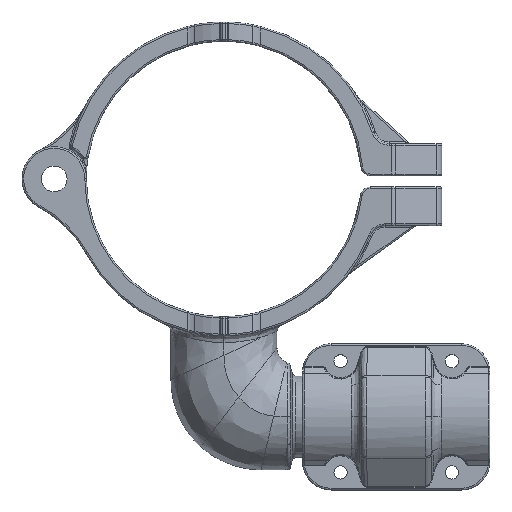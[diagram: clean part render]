
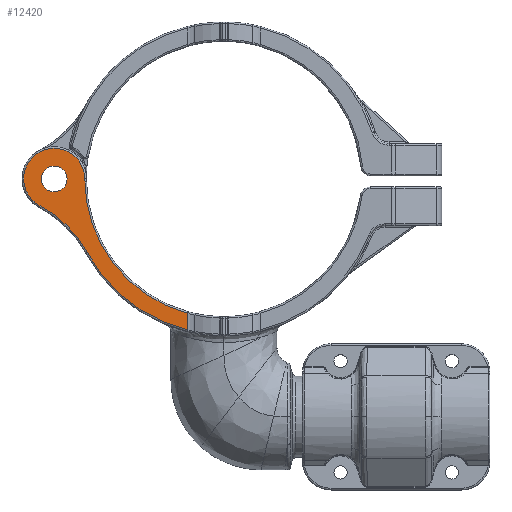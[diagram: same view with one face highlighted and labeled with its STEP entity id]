
A CAD part, top view. The second image highlights one B-rep face of the part: STEP entity #12420.
In plain terms, the highlighted planar face has unit normal (0, 0, 1).
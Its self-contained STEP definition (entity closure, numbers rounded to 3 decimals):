
#3001=DIRECTION('',(0.,1.,0.));
#3002=VECTOR('',#3001,5.22);
#3003=CARTESIAN_POINT('',(-11.384,-47.531,
17.708));
#3004=LINE('',#3003,#3002);
#3031=CARTESIAN_POINT('',(-53.429,0.,17.708));
#3032=DIRECTION('',(0.,0.,-1.));
#3033=DIRECTION('',(0.465,0.885,0.));
#3034=AXIS2_PLACEMENT_3D('',#3031,#3032,#3033);
#3039=CARTESIAN_POINT('',(0.,0.,17.708));
#3040=DIRECTION('',(0.,0.,1.));
#3041=DIRECTION('',(-1.,0.,0.));
#3042=AXIS2_PLACEMENT_3D('',#3039,#3040,#3041);
#3047=CARTESIAN_POINT('',(0.,0.,17.708));
#3048=DIRECTION('',(0.,0.,-1.));
#3049=DIRECTION('',(-0.233,-0.972,0.));
#3050=AXIS2_PLACEMENT_3D('',#3047,#3048,#3049);
#3055=CARTESIAN_POINT('',(-74.602,-40.314,17.708));
#3056=DIRECTION('',(0.,0.,1.));
#3057=DIRECTION('',(0.88,0.475,0.));
#3058=AXIS2_PLACEMENT_3D('',#3055,#3056,#3057);
#3063=CARTESIAN_POINT('',(-53.429,0.,17.708));
#3064=DIRECTION('',(0.,0.,-1.));
#3065=DIRECTION('',(-0.465,-0.885,0.));
#3066=AXIS2_PLACEMENT_3D('',#3063,#3064,#3065);
#3071=CARTESIAN_POINT('',(-53.429,0.,17.708));
#3072=DIRECTION('',(0.,0.,1.));
#3073=DIRECTION('',(1.,0.,0.));
#3074=AXIS2_PLACEMENT_3D('',#3071,#3072,#3073);
#3079=CARTESIAN_POINT('',(-53.429,0.,17.708));
#3080=DIRECTION('',(0.,0.,1.));
#3081=DIRECTION('',(-1.,0.,0.));
#3082=AXIS2_PLACEMENT_3D('',#3079,#3080,#3081);
#8134=CARTESIAN_POINT('',(-11.384,-47.531,17.708));
#8135=VERTEX_POINT('',#8134);
#8136=CARTESIAN_POINT('',(-42.998,-23.236,17.708));
#8137=VERTEX_POINT('',#8136);
#8140=CARTESIAN_POINT('',(-57.899,-8.511,17.708));
#8141=VERTEX_POINT('',#8140);
#8447=CARTESIAN_POINT('',(-11.384,-42.311,
17.708));
#8448=VERTEX_POINT('',#8447);
#8449=CARTESIAN_POINT('',(-48.959,8.511,17.708));
#8450=CARTESIAN_POINT('',(-43.815,0.,17.708));
#8451=VERTEX_POINT('',#8449);
#8452=VERTEX_POINT('',#8450);
#8453=CARTESIAN_POINT('',(-49.381,0.,17.708));
#8454=CARTESIAN_POINT('',(-57.476,0.,17.708));
#8455=VERTEX_POINT('',#8453);
#8456=VERTEX_POINT('',#8454);
#12398=CARTESIAN_POINT('',(0.,0.,17.708));
#12399=DIRECTION('',(0.,0.,1.));
#12400=DIRECTION('',(-1.,0.,0.));
#12401=AXIS2_PLACEMENT_3D('',#12398,#12399,#12400);
#12402=PLANE('',#12401);
#12404=ORIENTED_EDGE('',*,*,#12403,.T.);
#12406=ORIENTED_EDGE('',*,*,#12405,.T.);
#12407=ORIENTED_EDGE('',*,*,#12389,.F.);
#12408=ORIENTED_EDGE('',*,*,#10831,.T.);
#12409=ORIENTED_EDGE('',*,*,#10846,.T.);
#12411=ORIENTED_EDGE('',*,*,#12410,.T.);
#12412=EDGE_LOOP('',(#12404,#12406,#12407,#12408,#12409,#12411));
#12413=FACE_OUTER_BOUND('',#12412,.F.);
#12415=ORIENTED_EDGE('',*,*,#12414,.T.);
#12417=ORIENTED_EDGE('',*,*,#12416,.T.);
#12418=EDGE_LOOP('',(#12415,#12417));
#12419=FACE_BOUND('',#12418,.F.);
#3035=CIRCLE('',#3034,9.613);
#3043=CIRCLE('',#3042,43.815);
#3051=CIRCLE('',#3050,48.875);
#3059=CIRCLE('',#3058,35.923);
#3067=CIRCLE('',#3066,9.613);
#3075=CIRCLE('',#3074,4.048);
#3083=CIRCLE('',#3082,4.048);
#10831=EDGE_CURVE('',#8135,#8137,#3051,.T.);
#10846=EDGE_CURVE('',#8137,#8141,#3059,.T.);
#12389=EDGE_CURVE('',#8135,#8448,#3004,.T.);
#12403=EDGE_CURVE('',#8451,#8452,#3035,.T.);
#12405=EDGE_CURVE('',#8452,#8448,#3043,.T.);
#12410=EDGE_CURVE('',#8141,#8451,#3067,.T.);
#12414=EDGE_CURVE('',#8455,#8456,#3075,.T.);
#12416=EDGE_CURVE('',#8456,#8455,#3083,.T.);
#12420=ADVANCED_FACE('',(#12413,#12419),#12402,.T.);
